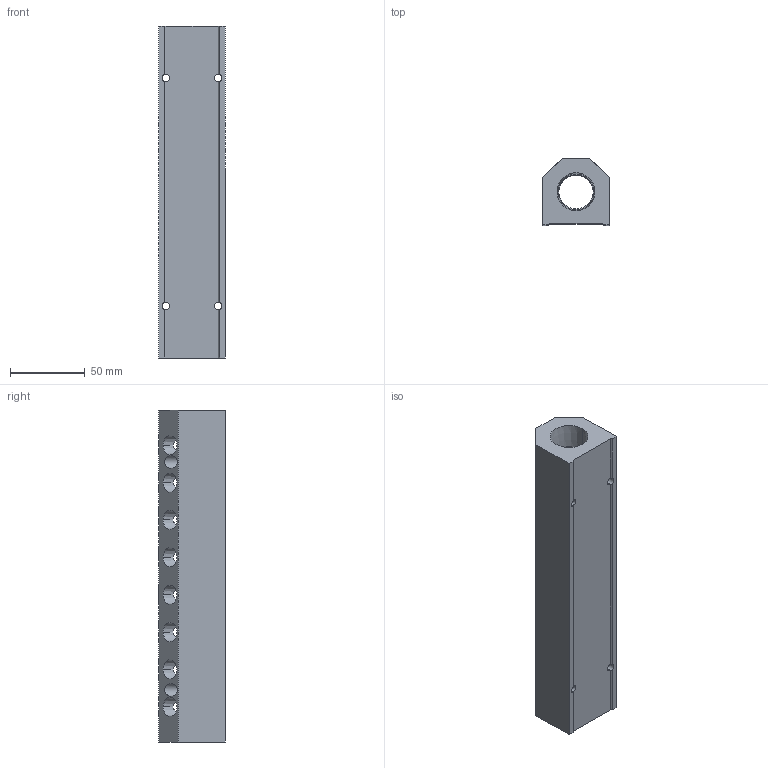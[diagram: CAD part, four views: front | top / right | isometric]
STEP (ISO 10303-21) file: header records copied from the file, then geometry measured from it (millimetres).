
FILE_DESCRIPTION (( 'STEP AP214' ), '1' );
FILE_NAME ('ALM8BCD-N4N12-222B.step', '2022-02-06T14:10:41', ( '' ), ( '' ), 'SwSTEP 2.0', 'SolidWorks 2020', '' );
FILE_SCHEMA (( 'AUTOMOTIVE_DESIGN' ));
Length unit declared in the file: millimetre
Products named in the file (1): ALM8BCD-N4N12-222B
Bounding box: 44.5 x 44.5 x 222 mm (x, y, z)
Volume: 262748 mm3; surface area: 62109.9 mm2
Topology: 1 solids, 1 shells, 379 faces, 1064 edges, 704 vertices
Faces by surface type: plane 213, bspline 78, cone 62, cylinder 26
Entity records: 19460 total; most frequent: CARTESIAN_POINT 9686, ORIENTED_EDGE 2128, DIRECTION 1480, EDGE_CURVE 1064, VERTEX_POINT 704, LINE 668, VECTOR 668, EDGE_LOOP 454
